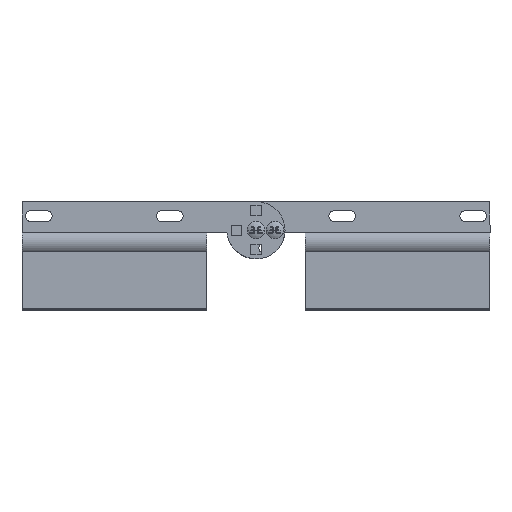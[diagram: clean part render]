
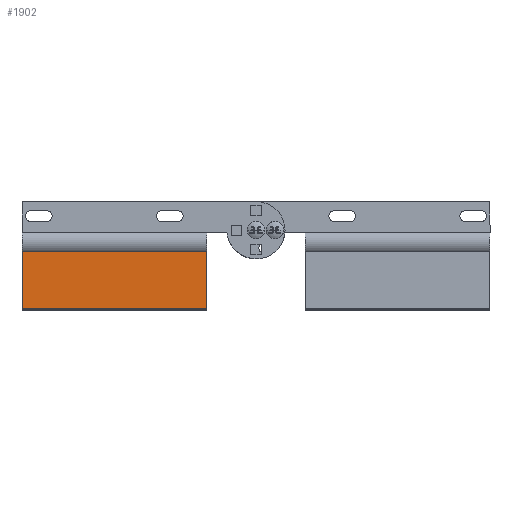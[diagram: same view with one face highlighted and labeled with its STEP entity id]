
A CAD part, top view. The second image highlights one B-rep face of the part: STEP entity #1902.
In plain terms, the highlighted planar face has unit normal (0, 0, 1).
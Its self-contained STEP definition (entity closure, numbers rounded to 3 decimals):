
#992 = CARTESIAN_POINT ( 'NONE',  ( 0., -79.4, 0.8 ) ) ;
#1033 = ORIENTED_EDGE ( 'NONE', *, *, #7933, .F. ) ;
#1226 = CARTESIAN_POINT ( 'NONE',  ( 174.5, -21.35, 0.8 ) ) ;
#1240 = VERTEX_POINT ( 'NONE', #6560 ) ;
#1363 = PLANE ( 'NONE',  #7751 ) ;
#1704 = ORIENTED_EDGE ( 'NONE', *, *, #7408, .T. ) ;
#1902 = ADVANCED_FACE ( 'NONE', ( #8387 ), #1363, .T. ) ;
#2550 = LINE ( 'NONE', #5516, #8530 ) ;
#2599 = LINE ( 'NONE', #8305, #4829 ) ;
#2976 = DIRECTION ( 'NONE',  ( 0., 1., 0. ) ) ;
#3214 = EDGE_CURVE ( 'NONE', #1240, #7001, #2599, .T. ) ;
#3375 = VECTOR ( 'NONE', #2976, 1000. ) ;
#3611 = CARTESIAN_POINT ( 'NONE',  ( 0., -36.946, 0.8 ) ) ;
#3986 = EDGE_LOOP ( 'NONE', ( #1033, #4953, #5072, #1704 ) ) ;
#4135 = VECTOR ( 'NONE', #6636, 1000. ) ;
#4270 = LINE ( 'NONE', #7079, #3375 ) ;
#4829 = VECTOR ( 'NONE', #6845, 1000. ) ;
#4953 = ORIENTED_EDGE ( 'NONE', *, *, #5793, .T. ) ;
#5072 = ORIENTED_EDGE ( 'NONE', *, *, #3214, .T. ) ;
#5384 = CARTESIAN_POINT ( 'NONE',  ( 174.5, -79.4, 0.8 ) ) ;
#5516 = CARTESIAN_POINT ( 'NONE',  ( 0., 0., 0.8 ) ) ;
#5793 = EDGE_CURVE ( 'NONE', #6934, #1240, #4270, .T. ) ;
#6330 = DIRECTION ( 'NONE',  ( 1., 0., 0. ) ) ;
#6560 = CARTESIAN_POINT ( 'NONE',  ( 137.5, -36.946, 0.8 ) ) ;
#6636 = DIRECTION ( 'NONE',  ( -1., 0., 0. ) ) ;
#6845 = DIRECTION ( 'NONE',  ( -1., 0., 0. ) ) ;
#6934 = VERTEX_POINT ( 'NONE', #9035 ) ;
#7001 = VERTEX_POINT ( 'NONE', #3611 ) ;
#7074 = VERTEX_POINT ( 'NONE', #992 ) ;
#7079 = CARTESIAN_POINT ( 'NONE',  ( 137.5, -92., 0.8 ) ) ;
#7408 = EDGE_CURVE ( 'NONE', #7001, #7074, #2550, .T. ) ;
#7698 = DIRECTION ( 'NONE',  ( 0., 0., 1. ) ) ;
#7751 = AXIS2_PLACEMENT_3D ( 'NONE', #1226, #7698, #6330 ) ;
#7933 = EDGE_CURVE ( 'NONE', #6934, #7074, #8046, .T. ) ;
#8046 = LINE ( 'NONE', #5384, #4135 ) ;
#8305 = CARTESIAN_POINT ( 'NONE',  ( 137.5, -36.946, 0.8 ) ) ;
#8306 = DIRECTION ( 'NONE',  ( 0., -1., 0. ) ) ;
#8387 = FACE_OUTER_BOUND ( 'NONE', #3986, .T. ) ;
#8530 = VECTOR ( 'NONE', #8306, 1000. ) ;
#9035 = CARTESIAN_POINT ( 'NONE',  ( 137.5, -79.4, 0.8 ) ) ;
